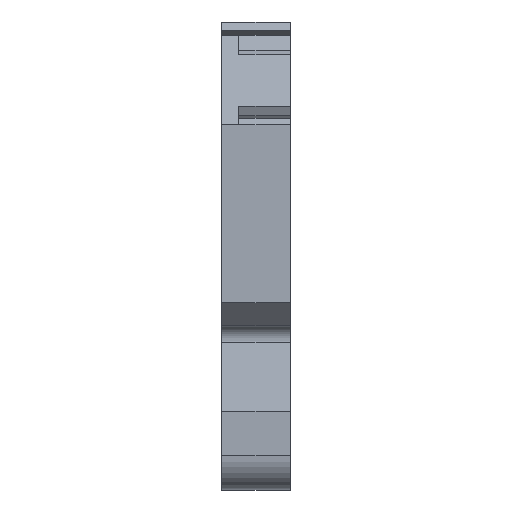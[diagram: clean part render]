
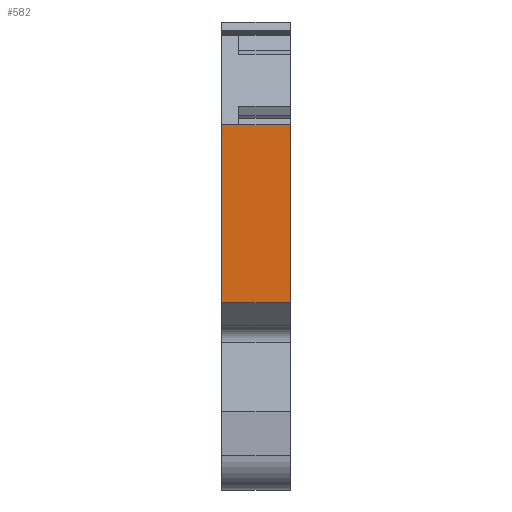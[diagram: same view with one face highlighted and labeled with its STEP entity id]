
A CAD part, left-side view. The second image highlights one B-rep face of the part: STEP entity #582.
In plain terms, the highlighted planar face has unit normal (-1, 0, 0).
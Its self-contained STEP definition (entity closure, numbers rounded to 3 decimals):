
#55 = CARTESIAN_POINT ( 'NONE',  ( -220.2, 68.718, 11.318 ) ) ;
#269 = CARTESIAN_POINT ( 'NONE',  ( -220.2, 68.718, 26.918 ) ) ;
#338 = VECTOR ( 'NONE', #5166, 1000. ) ;
#582 = ADVANCED_FACE ( 'NONE', ( #3316 ), #4065, .T. ) ;
#837 = DIRECTION ( 'NONE',  ( 0., 0., -1. ) ) ;
#1048 = CARTESIAN_POINT ( 'NONE',  ( -220.2, 62.718, 26.918 ) ) ;
#1430 = ORIENTED_EDGE ( 'NONE', *, *, #8993, .T. ) ;
#1536 = LINE ( 'NONE', #4643, #7292 ) ;
#2513 = DIRECTION ( 'NONE',  ( -1., 0., 0. ) ) ;
#2653 = DIRECTION ( 'NONE',  ( 0., 1., 0. ) ) ;
#2703 = VERTEX_POINT ( 'NONE', #7888 ) ;
#2720 = VERTEX_POINT ( 'NONE', #1048 ) ;
#2769 = EDGE_LOOP ( 'NONE', ( #7509, #9336, #4523, #1430 ) ) ;
#2891 = CARTESIAN_POINT ( 'NONE',  ( -220.2, 62.718, -5.082 ) ) ;
#3208 = CARTESIAN_POINT ( 'NONE',  ( -220.2, 68.718, 11.318 ) ) ;
#3316 = FACE_OUTER_BOUND ( 'NONE', #2769, .T. ) ;
#3604 = EDGE_CURVE ( 'NONE', #2720, #2703, #3765, .T. ) ;
#3765 = LINE ( 'NONE', #2891, #338 ) ;
#3794 = VERTEX_POINT ( 'NONE', #7823 ) ;
#3918 = CARTESIAN_POINT ( 'NONE',  ( -220.2, 68.718, 11.318 ) ) ;
#4065 = PLANE ( 'NONE',  #5234 ) ;
#4193 = LINE ( 'NONE', #269, #7466 ) ;
#4424 = EDGE_CURVE ( 'NONE', #2703, #6890, #4549, .T. ) ;
#4523 = ORIENTED_EDGE ( 'NONE', *, *, #3604, .F. ) ;
#4549 = LINE ( 'NONE', #3208, #7376 ) ;
#4619 = DIRECTION ( 'NONE',  ( 0., 0., 1. ) ) ;
#4643 = CARTESIAN_POINT ( 'NONE',  ( -220.2, 68.718, 11.318 ) ) ;
#5166 = DIRECTION ( 'NONE',  ( 0., 0., -1. ) ) ;
#5234 = AXIS2_PLACEMENT_3D ( 'NONE', #55, #2513, #4619 ) ;
#6890 = VERTEX_POINT ( 'NONE', #3918 ) ;
#7221 = DIRECTION ( 'NONE',  ( 0., 1., 0. ) ) ;
#7292 = VECTOR ( 'NONE', #837, 1000. ) ;
#7376 = VECTOR ( 'NONE', #2653, 1000. ) ;
#7466 = VECTOR ( 'NONE', #7221, 1000. ) ;
#7509 = ORIENTED_EDGE ( 'NONE', *, *, #7706, .T. ) ;
#7706 = EDGE_CURVE ( 'NONE', #3794, #6890, #1536, .T. ) ;
#7823 = CARTESIAN_POINT ( 'NONE',  ( -220.2, 68.718, 26.918 ) ) ;
#7888 = CARTESIAN_POINT ( 'NONE',  ( -220.2, 62.718, 11.318 ) ) ;
#8993 = EDGE_CURVE ( 'NONE', #2720, #3794, #4193, .T. ) ;
#9336 = ORIENTED_EDGE ( 'NONE', *, *, #4424, .F. ) ;
